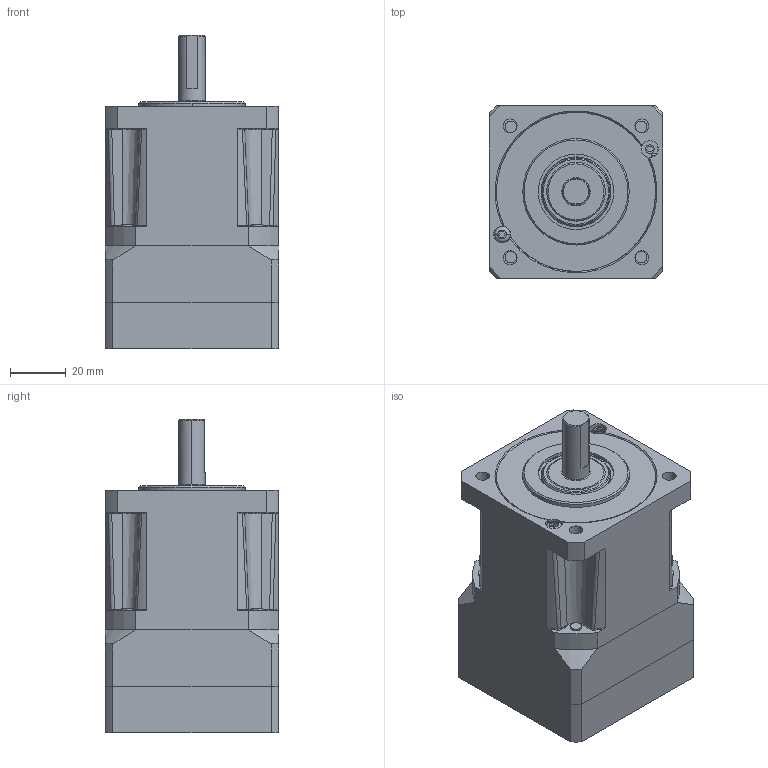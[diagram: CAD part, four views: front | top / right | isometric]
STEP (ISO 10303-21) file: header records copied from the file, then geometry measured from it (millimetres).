
FILE_DESCRIPTION((''),'2;1');
FILE_NAME('PX23-003-000-X2_SW0001','2008-11-20T',('aza7363'),(''),'PRO/ENGINEER BY PARAMETRIC TECHNOLOGY CORPORATION, 2006300','PRO/ENGINEER BY PARAMETRIC TECHNOLOGY CORPORATION, 2006300','');
FILE_SCHEMA(('CONFIG_CONTROL_DESIGN'));
Length unit declared in the file: millimetre
Products named in the file (1): PX23-003-000-X2_SW0001
Bounding box: 62 x 62 x 112.2 mm (x, y, z)
Surface area: 45242.8 mm2 (no closed solid volume)
Topology: 0 solids, 27 shells, 348 faces, 978 edges, 657 vertices
Faces by surface type: plane 147, cylinder 120, bspline 35, torus 24, cone 22
Entity records: 12928 total; most frequent: CARTESIAN_POINT 4015, DIRECTION 1885, ORIENTED_EDGE 1712, EDGE_CURVE 978, AXIS2_PLACEMENT_3D 721, VERTEX_POINT 657, VECTOR 443, LINE 443
